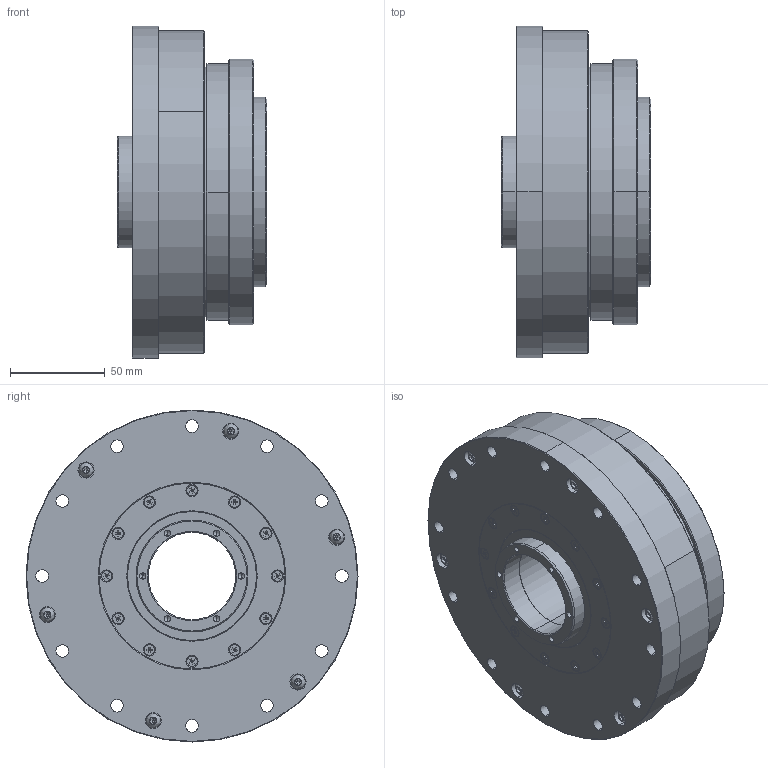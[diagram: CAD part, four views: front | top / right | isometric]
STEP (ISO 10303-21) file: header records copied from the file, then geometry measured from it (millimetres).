
FILE_DESCRIPTION (( 'STEP AP203' ), '1' );
FILE_NAME ('LHS-40-XXX-C-III.step', '2025-01-07T06:46:20', ( '' ), ( '' ), 'SwSTEP 2.0', 'SolidWorks 2023', '' );
FILE_SCHEMA (( 'CONFIG_CONTROL_DESIGN' ));
Length unit declared in the file: metre
Products named in the file (1): LHS-40-XXX-C-III
Bounding box: 79 x 175 x 175 mm (x, y, z)
Volume: 926034.2 mm3; surface area: 452009.3 mm2
Topology: 69 solids, 69 shells, 2329 faces, 6195 edges, 3786 vertices
Faces by surface type: cylinder 693, plane 656, bspline 584, cone 396
Entity records: 87621 total; most frequent: CARTESIAN_POINT 33331, ORIENTED_EDGE 11918, DIRECTION 10695, EDGE_CURVE 5959, AXIS2_PLACEMENT_3D 4420, VERTEX_POINT 3786, EDGE_LOOP 2759, CIRCLE 2674
